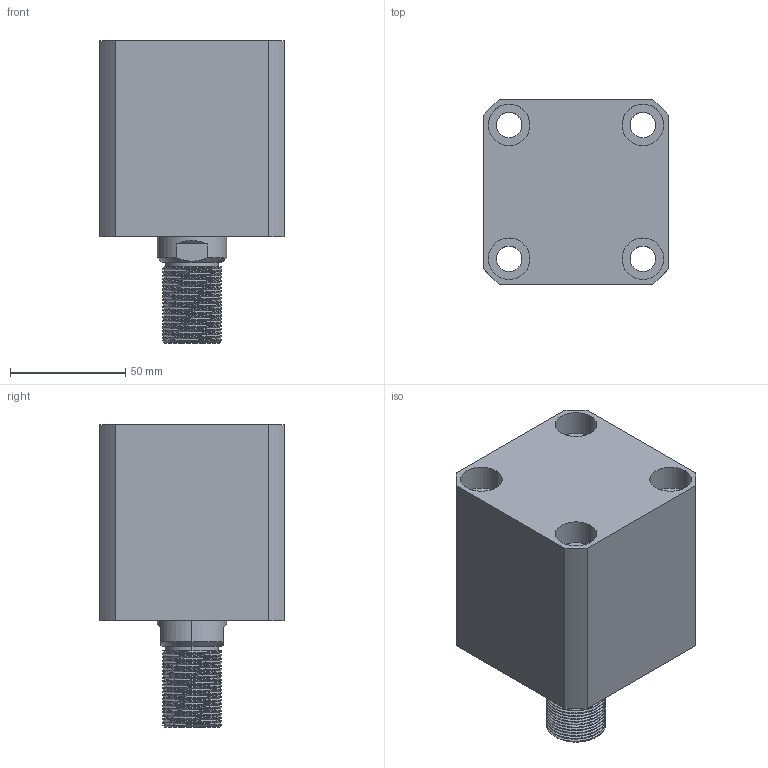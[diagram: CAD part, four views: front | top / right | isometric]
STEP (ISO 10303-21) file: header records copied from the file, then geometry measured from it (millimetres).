
FILE_DESCRIPTION (( 'STEP AP203' ), '1' );
FILE_NAME ('CHTB-SD50-25W.STEP', '2018-05-18T12:02:09', ( '' ), ( '' ), 'SwSTEP 2.0', 'SolidWorks 2015', '' );
FILE_SCHEMA (( 'CONFIG_CONTROL_DESIGN' ));
Length unit declared in the file: millimetre
Products named in the file (4): CHTB-SD50-25W; 掛极SD50-25W; 活塞杆SD50-25W; CHTM-SD50QG
Assembly tree (3 placements, depth 2):
  CHTB-SD50-25W
    掛极SD50-25W
    活塞杆SD50-25W
    CHTM-SD50QG
Bounding box: 80 x 80 x 131 mm (x, y, z)
Volume: 476759.5 mm3; surface area: 99024.3 mm2
Topology: 3 solids, 3 shells, 236 faces, 627 edges, 419 vertices
Faces by surface type: cylinder 144, plane 41, cone 19, bspline 16, torus 16
Entity records: 14613 total; most frequent: CARTESIAN_POINT 8784, ORIENTED_EDGE 1246, DIRECTION 1029, EDGE_CURVE 623, AXIS2_PLACEMENT_3D 422, VERTEX_POINT 419, EDGE_LOOP 276, ADVANCED_FACE 236
